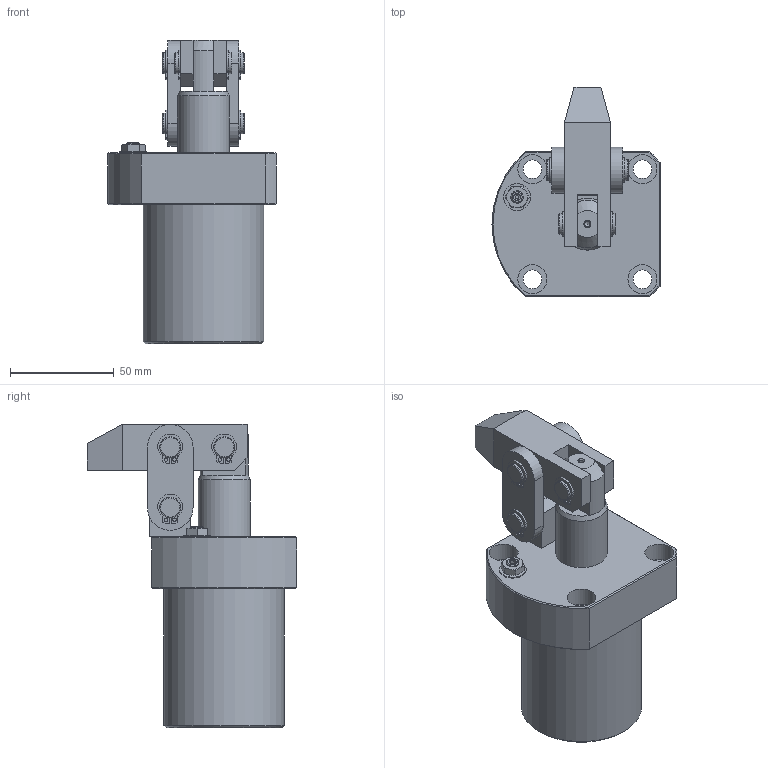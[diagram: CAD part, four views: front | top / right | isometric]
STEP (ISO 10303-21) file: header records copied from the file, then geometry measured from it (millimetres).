
FILE_DESCRIPTION(/* description */ ('Unknown'),/* implementation_level */ '2;1');
FILE_NAME(/* name */ 'HLB-FCM40-L-A',/* time_stamp */ '2025-06-02T04:00:43+08:00',/* author */ ('Unknown'),/* organization */ ('Unknown'),/* preprocessor_version */ 'ST-DEVELOPER v16.7',/* originating_system */ 'DEX',/* authorisation */ $);
FILE_SCHEMA (('AUTOMOTIVE_DESIGN {1 0 10303 214 3 1 1}'));
Length unit declared in the file: millimetre
Products named in the file (8): HLB-FCM40-L-A; HLB-FCM40-L-CYLINDER; HLB-40-墊; HLB-40-A; HLB-4002-AXLE CENTRE; HLB-40-PINｵuｭ; HLB-40-PINªøonRefs; HLB-40-C扣0
Assembly tree (14 placements, depth 2):
  HLB-FCM40-L-A
    HLB-FCM40-L-CYLINDER
    HLB-40-墊  x2
    HLB-40-A
    HLB-4002-AXLE CENTRE
    HLB-40-PINｵuｭ
    HLB-40-PINªøonRefs  x2
    HLB-40-C扣0  x6
Bounding box: 81 x 101 x 146.2 mm (x, y, z)
Volume: 335447.8 mm3; surface area: 74646.6 mm2
Topology: 14 solids, 14 shells, 287 faces, 657 edges, 429 vertices
Faces by surface type: plane 127, cylinder 115, cone 25, bspline 12, torus 8
Full cylindrical faces by diameter (mm): 1.7 x12, 2.496 x1, 3 x2, 4.1 x2, 6 x1, 9 x4, 9.5 x7, 10 x17, 12 x2, 13 x1, 14 x4, 25 x2, 40 x2, 58 x1
Entity records: 5150 total; most frequent: CARTESIAN_POINT 1121, DIRECTION 791, ORIENTED_EDGE 666, EDGE_CURVE 333, AXIS2_PLACEMENT_3D 333, FACE_BOUND 298, EDGE_LOOP 297, VERTEX_POINT 247
